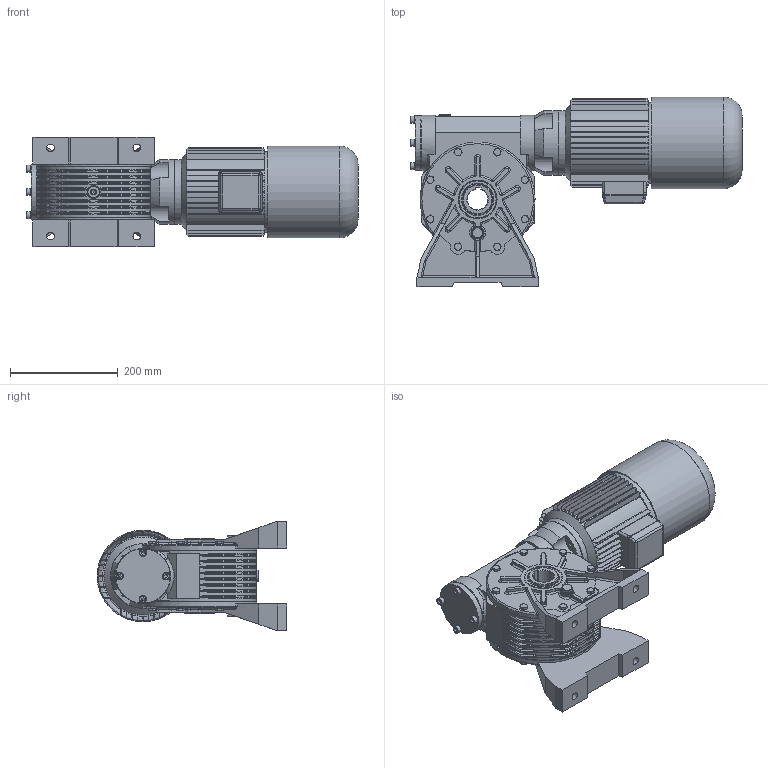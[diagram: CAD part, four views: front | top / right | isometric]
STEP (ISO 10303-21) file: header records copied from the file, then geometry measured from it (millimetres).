
FILE_DESCRIPTION((''),'2;1');
FILE_NAME('Y:\Archivi Inventor\Prog_01\GRAND_50\complessivi\Figurini\MRV50 sito\80_autofrenante\mrv50_P2_80_B14.stp','2013-02-06T15:13:22',('tech3'),(''),'Autodesk Inventor 2013','Autodesk Inventor 2013','');
FILE_SCHEMA(('AUTOMOTIVE_DESIGN { 1 0 10303 214 1 1 1 1 }'));
Length unit declared in the file: millimetre
Products named in the file (18): mrv50_80_b14; mrv50_fig; Figurino_carcassa_MRV50; 0105028; 0105029; figurino_corona_MRV50; figurino_0105010; Guarnizione 3_8 GAS; Tappo 3_8 GAS_esagn_incsst; Tappo3_8 GAS; figurino_0105009; ISO 4017 M8 x 20; 55_70_8; UNI 6592 8.4 x 14; UNI 5931  M 8 x  25; 0105006; DIN EN ISO 4762 M8 x 20; motori B14 brake 80
Assembly tree (50 placements, depth 3):
  mrv50_80_b14
    mrv50_fig
      Figurino_carcassa_MRV50
      0105028  x2
      0105029  x2
      figurino_corona_MRV50
      figurino_0105010  x2
      Guarnizione 3_8 GAS  x4
      Tappo 3_8 GAS_esagn_incsst  x2
      Tappo3_8 GAS  x2
      figurino_0105009
      ISO 4017 M8 x 20  x16
      55_70_8  x2
      UNI 6592 8.4 x 14  x4
      UNI 5931  M 8 x  25  x4
    0105006
    DIN EN ISO 4762 M8 x 20  x4
    motori B14 brake 80
Bounding box: 615.8 x 352 x 203.7 mm (x, y, z)
Volume: 9749444.3 mm3; surface area: 1253272 mm2
Topology: 62 solids, 64 shells, 2099 faces, 4987 edges, 2958 vertices
Faces by surface type: plane 913, cylinder 608, cone 228, bspline 162, torus 150, sphere 38
Full cylindrical faces by diameter (mm): 2 x2, 4.917 x4, 5 x1, 6.647 x24, 7 x4, 8 x26, 8.4 x4, 8.5 x48, 11.63 x16, 13 x12, 13.046 x2, 14 x12, 14.95 x4, 16.3 x4, 16.5 x2, 19 x1, 22 x8, 24 x2, 55 x1, 60 x1, 66.4 x2, 69 x2, 70 x5, 72 x4, 73 x2, 75 x1, 80 x1, 99.5 x2, 101 x1, 102 x2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
Entity records: 48932 total; most frequent: CARTESIAN_POINT 16309, DIRECTION 6730, ORIENTED_EDGE 6224, EDGE_CURVE 3112, AXIS2_PLACEMENT_3D 2633, VERTEX_POINT 1998, EDGE_LOOP 1762, VECTOR 1464
